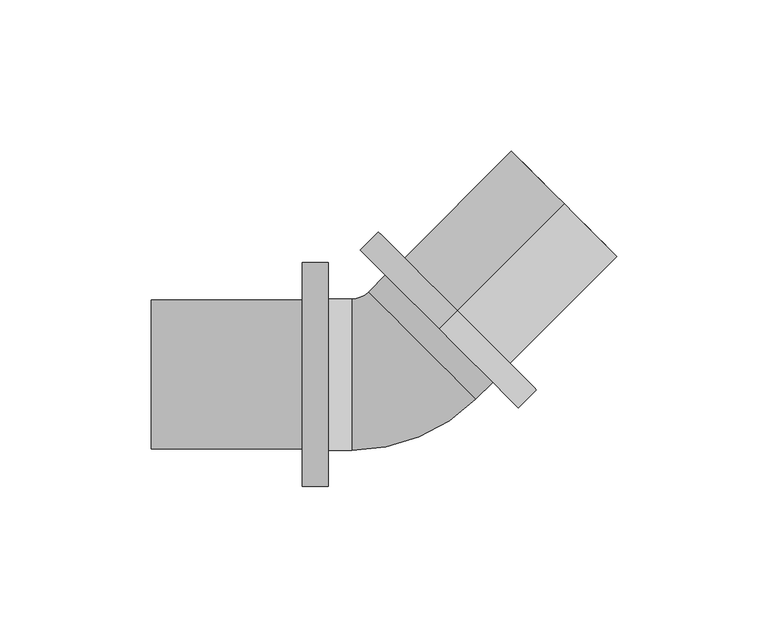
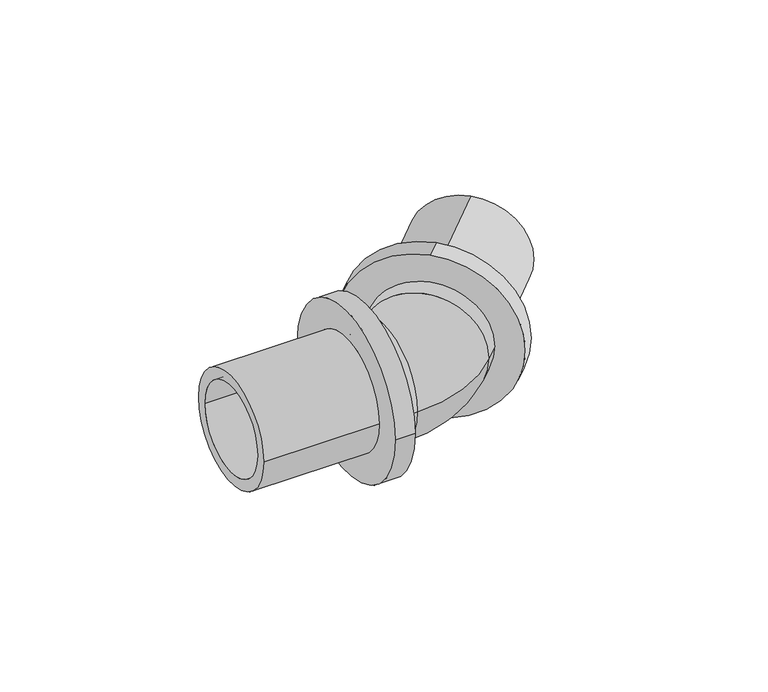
"""IFC4 building model written with IfcOpenShell, lengths in millimetres: pipe fitting geometry, RAUTITAN_Corner_RX+ : RTI RX+ C DE."""

from ifc_helpers import new_model, si_unit, point, frame, origin, place, context, project, spatial, polyline, circle_curve, ellipse_curve, trimmed, source, transform, mapped, element, save
from ifc_brep_helpers import plane_surface, cylinder_surface, revolved_surface, advanced_brep


def pipe_fitting_cdf9e88e(model_context):
    return source(origin(), model_context, "Body", "AdvancedBrep", [
        advanced_brep(
        [(-21.5, 25.05, 0.0), (-21.5, -25.05, 0.0), (-21.5, 19.75, 0.0), (-21.5, -19.75, 0.0), (-13.6690476, -19.75, 0.0), (-13.6690476, 0.0, -19.75), (-13.6690476, 19.75, 0.0), (-13.6690476, 0.0, 19.75), (-13.6690476, -25.05, 0.0), (-13.6690476, 25.05, 0.0), (32.9158207, -2.5102291, 0.0), (-2.5102291, 32.9158207, 0.0), (29.1681547, 1.2374369, 0.0), (1.2374369, 29.1681547, 0.0), (-4.2998827, 23.6308351, 0.0), (9.6654762, 9.6654762, -19.75), (23.6308351, -4.2998827, 0.0), (9.6654762, 9.6654762, 19.75), (-8.0475486, 27.3785011, 0.0), (27.3785011, -8.0475486, 0.0)],
        [
            (0, 1, circle_curve(frame((-21.5, 0.0, 0.0), z_axis=(-1.0, 0.0, 0.0), x_axis=(0.0, -1.0, 0.0)), 25.05)),
            (1, 0, circle_curve(frame((-21.5, 0.0, 0.0), z_axis=(-1.0, 0.0, 0.0), x_axis=(0.0, -1.0, 0.0)), 25.05)),
            (2, 3, circle_curve(frame((-21.5, 0.0, 0.0), z_axis=(1.0, 0.0, 0.0), x_axis=(0.0, -1.0, 0.0)), 19.75)),
            (3, 2, circle_curve(frame((-21.5, 0.0, 0.0), z_axis=(1.0, 0.0, 0.0), x_axis=(0.0, -1.0, 0.0)), 19.75)),
            (3, 4),
            (4, 5, circle_curve(frame((-13.6690476, 0.0, 0.0), z_axis=(1.0, 0.0, 0.0), x_axis=(0.0, -1.0, 0.0)), 19.75)),
            (5, 6, circle_curve(frame((-13.6690476, 0.0, 0.0), z_axis=(1.0, 0.0, 0.0), x_axis=(0.0, -1.0, 0.0)), 19.75)),
            (6, 2),
            (6, 7, circle_curve(frame((-13.6690476, 0.0, 0.0), z_axis=(1.0, 0.0, 0.0), x_axis=(0.0, -1.0, 0.0)), 19.75)),
            (7, 4, circle_curve(frame((-13.6690476, 0.0, 0.0), z_axis=(1.0, 0.0, 0.0), x_axis=(0.0, -1.0, 0.0)), 19.75)),
            (1, 8),
            (8, 9, circle_curve(frame((-13.6690476, 0.0, 0.0), z_axis=(-1.0, 0.0, 0.0), x_axis=(0.0, -1.0, 0.0)), 25.05)),
            (9, 0),
            (9, 8, circle_curve(frame((-13.6690476, 0.0, 0.0), z_axis=(-1.0, 0.0, 0.0), x_axis=(0.0, -1.0, 0.0)), 25.05)),
            (10, 11, circle_curve(frame((15.2027958, 15.2027958, 0.0), z_axis=(0.7071067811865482, 0.7071067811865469, 0.0), x_axis=(-0.7071067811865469, 0.7071067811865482, 0.0)), 25.05)),
            (11, 10, circle_curve(frame((15.2027958, 15.2027958, 0.0), z_axis=(0.7071067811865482, 0.7071067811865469, 0.0), x_axis=(-0.7071067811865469, 0.7071067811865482, 0.0)), 25.05)),
            (12, 13, circle_curve(frame((15.2027958, 15.2027958, 0.0), z_axis=(-0.7071067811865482, -0.7071067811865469, 0.0), x_axis=(-0.7071067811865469, 0.7071067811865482, 0.0)), 19.75)),
            (13, 12, circle_curve(frame((15.2027958, 15.2027958, 0.0), z_axis=(-0.7071067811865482, -0.7071067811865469, 0.0), x_axis=(-0.7071067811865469, 0.7071067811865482, 0.0)), 19.75)),
            (13, 14),
            (14, 15, circle_curve(frame((9.6654762, 9.6654762, 0.0), z_axis=(-0.7071067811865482, -0.7071067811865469, 0.0), x_axis=(-0.7071067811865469, 0.7071067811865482, 0.0)), 19.75)),
            (15, 16, circle_curve(frame((9.6654762, 9.6654762, 0.0), z_axis=(-0.7071067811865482, -0.7071067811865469, 0.0), x_axis=(-0.7071067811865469, 0.7071067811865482, 0.0)), 19.75)),
            (16, 12),
            (16, 17, circle_curve(frame((9.6654762, 9.6654762, 0.0), z_axis=(-0.7071067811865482, -0.7071067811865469, 0.0), x_axis=(-0.7071067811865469, 0.7071067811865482, 0.0)), 19.75)),
            (17, 14, circle_curve(frame((9.6654762, 9.6654762, 0.0), z_axis=(-0.7071067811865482, -0.7071067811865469, 0.0), x_axis=(-0.7071067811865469, 0.7071067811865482, 0.0)), 19.75)),
            (11, 18),
            (18, 19, circle_curve(frame((9.6654762, 9.6654762, 0.0), z_axis=(0.7071067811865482, 0.7071067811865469, 0.0), x_axis=(-0.7071067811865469, 0.7071067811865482, 0.0)), 25.05)),
            (19, 10),
            (19, 18, circle_curve(frame((9.6654762, 9.6654762, 0.0), z_axis=(0.7071067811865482, 0.7071067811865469, 0.0), x_axis=(-0.7071067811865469, 0.7071067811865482, 0.0)), 25.05)),
            (14, 6, circle_curve(frame((-13.6690476, 33.0, 0.0), z_axis=(0.0, 0.0, -1.0), x_axis=(0.0, -1.0, 0.0)), 13.25)),
            (4, 16, circle_curve(frame((-13.6690476, 33.0, 0.0), z_axis=(0.0, 0.0, 1.0), x_axis=(0.0, -1.0, 0.0)), 52.75)),
            (18, 9, circle_curve(frame((-13.6690476, 33.0, 0.0), z_axis=(0.0, 0.0, -1.0), x_axis=(0.0, -1.0, 0.0)), 7.95)),
            (8, 19, circle_curve(frame((-13.6690476, 33.0, 0.0), z_axis=(0.0, 0.0, 1.0), x_axis=(0.0, -1.0, 0.0)), 58.05)),
        ],
        [
            plane_surface(frame((-21.5, 0.0, 0.0), z_axis=(-1.0, 0.0, 0.0), x_axis=(0.0, 0.0, 1.0))),
            revolved_surface(polyline([(-21.5, -19.75, 0.0), (-13.6690476, -19.75, 0.0)]), (-13.6690476, 0.0, 0.0), (-1.0, 0.0, 0.0)),
            cylinder_surface(frame((-13.6690476, 0.0, 0.0), z_axis=(1.0, 0.0, 0.0), x_axis=(0.0, -1.0, 0.0)), 25.05),
            plane_surface(frame((15.2027958, 15.2027958, 0.0), z_axis=(0.7071067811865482, 0.7071067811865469, 0.0), x_axis=(0.0, 0.0, 1.0))),
            revolved_surface(polyline([(1.2374368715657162, 29.168154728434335, 0.0), (-4.299882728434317, 23.630835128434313, 0.0)]), (9.6654762, 9.6654762, 0.0), (0.7071067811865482, 0.7071067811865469, 0.0)),
            cylinder_surface(frame((9.6654762, 9.6654762, 0.0), z_axis=(-0.7071067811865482, -0.7071067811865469, 0.0), x_axis=(-0.7071067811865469, 0.7071067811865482, 0.0)), 25.05),
            revolved_surface(trimmed(ellipse_curve(frame((-13.6690476, 0.0, 0.0), z_axis=(1.0, 0.0, 0.0), x_axis=(0.0, 1.0, 0.0)), 19.75, 19.75), [point((-13.6690476, -19.75, 0.0))], [point((-13.6690476, 19.75, 0.0))], True, "CARTESIAN"), (-13.6690476, 33.0, 0.0), (0.0, 0.0, 1.0)),
            revolved_surface(trimmed(ellipse_curve(frame((-13.6690476, 0.0, 0.0), z_axis=(1.0, 0.0, 0.0), x_axis=(0.0, 1.0, 0.0)), 19.75, 19.75), [point((-13.6690476, 19.75, 0.0))], [point((-13.6690476, -19.75, 0.0))], True, "CARTESIAN"), (-13.6690476, 33.0, 0.0), (0.0, 0.0, 1.0)),
            revolved_surface(trimmed(ellipse_curve(frame((-13.6690476, 0.0, 0.0), z_axis=(-1.0, 0.0, 0.0), x_axis=(0.0, 1.0, 0.0)), 25.05, 25.05), [point((-13.6690476, -25.05, 0.0))], [point((-13.6690476, 25.05, 0.0))], True, "CARTESIAN"), (-13.6690476, 33.0, 0.0), (0.0, 0.0, 1.0)),
            revolved_surface(trimmed(ellipse_curve(frame((-13.6690476, 0.0, 0.0), z_axis=(-1.0, 0.0, 0.0), x_axis=(0.0, 1.0, 0.0)), 25.05, 25.05), [point((-13.6690476, 25.05, 0.0))], [point((-13.6690476, -25.05, 0.0))], True, "CARTESIAN"), (-13.6690476, 33.0, 0.0), (0.0, 0.0, 1.0)),
        ],
        [
            (0, [[1, 2], [3, 4]]),
            (1, [[-4, 5, 6, 7, 8]]),
            (1, [[-3, -8, 9, 10, -5]]),
            (2, [[-2, 11, 12, 13]]),
            (2, [[-1, -13, 14, -11]]),
            (3, [[15, 16], [17, 18]]),
            (4, [[-18, 19, 20, 21, 22]]),
            (4, [[-17, -22, 23, 24, -19]]),
            (5, [[-16, 25, 26, 27]]),
            (5, [[-15, -27, 28, -25]]),
            (6, [[29, -7, -6, 30, -21, -20]]),
            (7, [[-29, -24, -23, -30, -10, -9]]),
            (8, [[31, -12, 32, -26]]),
            (9, [[-31, -28, -32, -14]]),
        ],
    ),
        advanced_brep(
        [(-30.0, -37.05, 0.0), (-30.0, 37.05, 0.0), (-21.5, 37.05, 0.0), (-21.5, -37.05, 0.0), (-80.0, -24.65, 0.0), (-80.0, 24.65, 0.0), (-30.0, 24.65, 0.0), (-30.0, -24.65, 0.0), (-21.5, -19.75, 0.0), (-21.5, 19.75, 0.0), (-80.0, 19.75, 0.0), (-80.0, -19.75, 0.0)],
        [
            (0, 1, circle_curve(frame((-30.0, 0.0, 0.0), z_axis=(1.0, 0.0, 0.0), x_axis=(0.0, 1.0, 0.0)), 37.05)),
            (1, 2),
            (2, 3, circle_curve(frame((-21.5, 0.0, 0.0), z_axis=(-1.0, 0.0, 0.0), x_axis=(0.0, 1.0, 0.0)), 37.05)),
            (3, 0),
            (4, 5, circle_curve(frame((-80.0, 0.0, 0.0), z_axis=(1.0, 0.0, 0.0), x_axis=(0.0, 1.0, 0.0)), 24.65)),
            (5, 6),
            (6, 7, circle_curve(frame((-30.0, 0.0, 0.0), z_axis=(-1.0, 0.0, 0.0), x_axis=(0.0, 1.0, 0.0)), 24.65)),
            (7, 4),
            (8, 9, circle_curve(frame((-21.5, 0.0, 0.0), z_axis=(1.0, 0.0, 0.0), x_axis=(0.0, 1.0, 0.0)), 19.75)),
            (9, 10),
            (10, 11, circle_curve(frame((-80.0, 0.0, 0.0), z_axis=(-1.0, 0.0, 0.0), x_axis=(0.0, 1.0, 0.0)), 19.75)),
            (11, 8),
            (1, 0, circle_curve(frame((-30.0, 0.0, 0.0), z_axis=(1.0, 0.0, 0.0), x_axis=(0.0, -1.0, 0.0)), 37.05)),
            (3, 2, circle_curve(frame((-21.5, 0.0, 0.0), z_axis=(-1.0, 0.0, 0.0), x_axis=(0.0, -1.0, 0.0)), 37.05)),
            (6, 7, circle_curve(frame((-30.0, 0.0, 0.0), z_axis=(1.0, 0.0, 0.0), x_axis=(0.0, -1.0, 0.0)), 24.65)),
            (5, 4, circle_curve(frame((-80.0, 0.0, 0.0), z_axis=(1.0, 0.0, 0.0), x_axis=(0.0, -1.0, 0.0)), 24.65)),
            (10, 11, circle_curve(frame((-80.0, 0.0, 0.0), z_axis=(1.0, 0.0, 0.0), x_axis=(0.0, -1.0, 0.0)), 19.75)),
            (9, 8, circle_curve(frame((-21.5, 0.0, 0.0), z_axis=(1.0, 0.0, 0.0), x_axis=(0.0, -1.0, 0.0)), 19.75)),
        ],
        [
            cylinder_surface(frame((-21.5, 0.0, 0.0), z_axis=(-1.0, 0.0, 0.0), x_axis=(0.0, 1.0, 0.0)), 37.05),
            cylinder_surface(frame((-21.5, 0.0, 0.0), z_axis=(-1.0, 0.0, 0.0), x_axis=(0.0, 1.0, 0.0)), 24.65),
            revolved_surface(polyline([(-80.0, 19.75, 0.0), (-21.5, 19.75, 0.0)]), (-21.5, 0.0, 0.0), (-1.0, 0.0, 0.0)),
            cylinder_surface(frame((-21.5, 0.0, 0.0), z_axis=(-1.0, 0.0, 0.0), x_axis=(0.0, -1.0, 0.0)), 37.05),
            plane_surface(frame((-30.0, 0.0, 0.0), z_axis=(-1.0, 0.0, 0.0), x_axis=(0.0, -1.0, 0.0))),
            cylinder_surface(frame((-21.5, 0.0, 0.0), z_axis=(-1.0, 0.0, 0.0), x_axis=(0.0, -1.0, 0.0)), 24.65),
            plane_surface(frame((-80.0, 0.0, 0.0), z_axis=(-1.0, 0.0, 0.0), x_axis=(0.0, -1.0, 0.0))),
            revolved_surface(polyline([(-80.0, -19.75, 0.0), (-21.5, -19.75, 0.0)]), (-21.5, 0.0, 0.0), (-1.0, 0.0, 0.0)),
            plane_surface(frame((-21.5, 0.0, 0.0), z_axis=(1.0, 0.0, 0.0), x_axis=(0.0, -1.0, 0.0))),
        ],
        [
            (0, [[1, 2, 3, 4]]),
            (1, [[5, 6, 7, 8]]),
            (2, [[9, 10, 11, 12]]),
            (3, [[13, -4, 14, -2]]),
            (4, [[-13, -1], [15, -7]]),
            (5, [[16, -8, -15, -6]]),
            (6, [[-16, -5], [17, -11]]),
            (7, [[18, -12, -17, -10]]),
            (8, [[-14, -3], [-18, -9]]),
        ],
    ),
        advanced_brep(
        [(21.2132034, 21.2132034, 37.4749044), (21.2132034, 21.2132034, -36.6250956), (15.2027958, 15.2027958, -36.6250956), (15.2027958, 15.2027958, 37.4749044), (56.5685425, 56.5685425, 25.0749044), (56.5685425, 56.5685425, -24.2250956), (21.2132034, 21.2132034, -24.2250956), (21.2132034, 21.2132034, 25.0749044), (15.2027958, 15.2027958, 20.1749044), (15.2027958, 15.2027958, -19.3250956), (56.5685425, 56.5685425, -19.3250956), (56.5685425, 56.5685425, 20.1749044)],
        [
            (0, 1, circle_curve(frame((21.2132034, 21.2132034, 0.4249044), z_axis=(-0.7071067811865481, -0.7071067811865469, 0.0), x_axis=(0.0, 0.0, -1.0)), 37.05)),
            (1, 2),
            (2, 3, circle_curve(frame((15.2027958, 15.2027958, 0.4249044), z_axis=(0.7071067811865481, 0.7071067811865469, 0.0), x_axis=(0.0, 0.0, -1.0)), 37.05)),
            (3, 0),
            (4, 5, circle_curve(frame((56.5685425, 56.5685425, 0.4249044), z_axis=(-0.7071067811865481, -0.7071067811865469, 0.0), x_axis=(0.0, 0.0, -1.0)), 24.65)),
            (5, 6),
            (6, 7, circle_curve(frame((21.2132034, 21.2132034, 0.4249044), z_axis=(0.7071067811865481, 0.7071067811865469, 0.0), x_axis=(0.0, 0.0, -1.0)), 24.65)),
            (7, 4),
            (8, 9, circle_curve(frame((15.2027958, 15.2027958, 0.4249044), z_axis=(-0.7071067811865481, -0.7071067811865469, 0.0), x_axis=(0.0, 0.0, -1.0)), 19.75)),
            (9, 10),
            (10, 11, circle_curve(frame((56.5685425, 56.5685425, 0.4249044), z_axis=(0.7071067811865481, 0.7071067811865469, 0.0), x_axis=(0.0, 0.0, -1.0)), 19.75)),
            (11, 8),
            (1, 0, circle_curve(frame((21.2132034, 21.2132034, 0.4249044), z_axis=(-0.7071067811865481, -0.7071067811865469, 0.0), x_axis=(0.0, 0.0, 1.0)), 37.05)),
            (3, 2, circle_curve(frame((15.2027958, 15.2027958, 0.4249044), z_axis=(0.7071067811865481, 0.7071067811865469, 0.0), x_axis=(0.0, 0.0, 1.0)), 37.05)),
            (6, 7, circle_curve(frame((21.2132034, 21.2132034, 0.4249044), z_axis=(-0.7071067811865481, -0.7071067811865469, 0.0), x_axis=(0.0, 0.0, 1.0)), 24.65)),
            (5, 4, circle_curve(frame((56.5685425, 56.5685425, 0.4249044), z_axis=(-0.7071067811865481, -0.7071067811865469, 0.0), x_axis=(0.0, 0.0, 1.0)), 24.65)),
            (10, 11, circle_curve(frame((56.5685425, 56.5685425, 0.4249044), z_axis=(-0.7071067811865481, -0.7071067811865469, 0.0), x_axis=(0.0, 0.0, 1.0)), 19.75)),
            (9, 8, circle_curve(frame((15.2027958, 15.2027958, 0.4249044), z_axis=(-0.7071067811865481, -0.7071067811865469, 0.0), x_axis=(0.0, 0.0, 1.0)), 19.75)),
        ],
        [
            cylinder_surface(frame((15.2027958, 15.2027958, 0.4249044), z_axis=(0.7071067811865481, 0.7071067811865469, 0.0), x_axis=(0.0, 0.0, -1.0)), 37.05),
            cylinder_surface(frame((15.2027958, 15.2027958, 0.4249044), z_axis=(0.7071067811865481, 0.7071067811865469, 0.0), x_axis=(0.0, 0.0, -1.0)), 24.65),
            revolved_surface(polyline([(56.568542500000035, 56.568542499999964, -19.3250956), (15.2027958, 15.2027958, -19.3250956)]), (15.2027958, 15.2027958, 0.4249044), (0.7071067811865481, 0.7071067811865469, 0.0)),
            cylinder_surface(frame((15.2027958, 15.2027958, 0.4249044), z_axis=(0.7071067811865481, 0.7071067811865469, 0.0), x_axis=(0.0, 0.0, 1.0)), 37.05),
            plane_surface(frame((21.2132034, 21.2132034, 0.4249044), z_axis=(0.7071067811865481, 0.7071067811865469, 0.0), x_axis=(0.0, 0.0, 1.0))),
            cylinder_surface(frame((15.2027958, 15.2027958, 0.4249044), z_axis=(0.7071067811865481, 0.7071067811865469, 0.0), x_axis=(0.0, 0.0, 1.0)), 24.65),
            plane_surface(frame((56.5685425, 56.5685425, 0.4249044), z_axis=(0.7071067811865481, 0.7071067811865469, 0.0), x_axis=(0.0, 0.0, 1.0))),
            revolved_surface(polyline([(56.568542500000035, 56.568542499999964, 20.1749044), (15.2027958, 15.2027958, 20.1749044)]), (15.2027958, 15.2027958, 0.4249044), (0.7071067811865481, 0.7071067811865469, 0.0)),
            plane_surface(frame((15.2027958, 15.2027958, 0.4249044), z_axis=(-0.7071067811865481, -0.7071067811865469, 0.0), x_axis=(0.0, 0.0, 1.0))),
        ],
        [
            (0, [[1, 2, 3, 4]]),
            (1, [[5, 6, 7, 8]]),
            (2, [[9, 10, 11, 12]]),
            (3, [[13, -4, 14, -2]]),
            (4, [[-13, -1], [15, -7]]),
            (5, [[16, -8, -15, -6]]),
            (6, [[-16, -5], [17, -11]]),
            (7, [[18, -12, -17, -10]]),
            (8, [[-14, -3], [-18, -9]]),
        ],
    ),
    ])


if __name__ == "__main__":
    model = new_model("IFC4")
    model_context = context("Model", 3, world=origin())
    ifc_project = project(units=[si_unit("LENGTHUNIT", "METRE", prefix="MILLI")], contexts=[model_context])
    site = spatial("IfcSite", under=ifc_project)
    building = spatial("IfcBuilding", under=site)
    placement = place(None, origin())
    pipe_fitting_shape = pipe_fitting_cdf9e88e(model_context)
    element("IfcPipeFitting", 1, ObjectType="RAUTITAN_Corner_RX+ : RTI RX+ C DE", at=placement, inside=building, context=model_context, shape_type="MappedRepresentation", body=[
        mapped(pipe_fitting_shape, transform((0.0, 0.0, 0.0), x_axis=(1.0, 0.0, 0.0), y_axis=(0.0, 1.0, 0.0), z_axis=(0.0, 0.0, 1.0))),
    ])
    save(model, "model.ifc")
